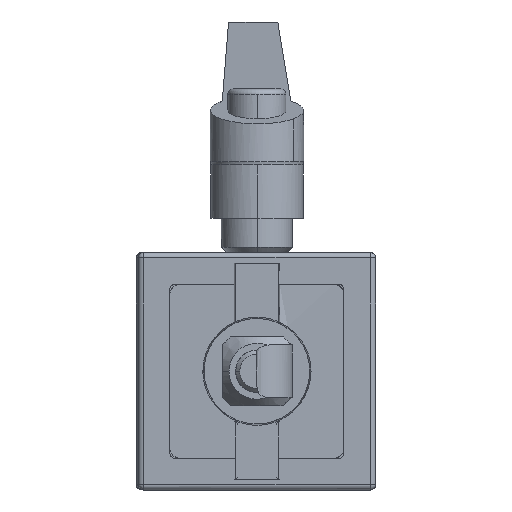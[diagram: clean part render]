
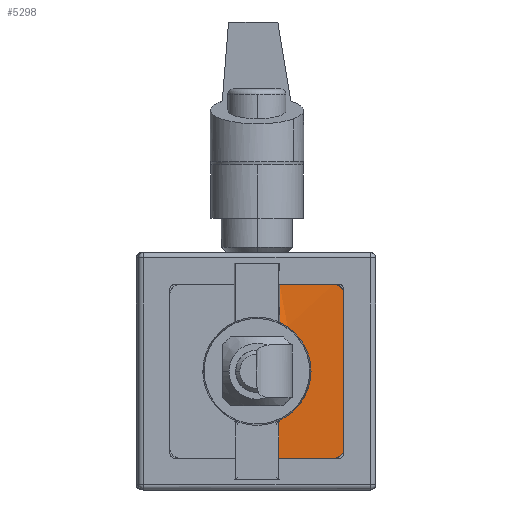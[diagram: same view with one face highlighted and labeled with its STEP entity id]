
A CAD part, front view. The second image highlights one B-rep face of the part: STEP entity #5298.
In plain terms, the highlighted planar face has unit normal (0, -1, 0).
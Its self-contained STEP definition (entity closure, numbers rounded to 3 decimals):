
#221 = CARTESIAN_POINT ( 'NONE',  ( 16.5, -30., 8. ) ) ;
#288 = EDGE_CURVE ( 'NONE', #7520, #676, #13168, .T. ) ;
#649 = CARTESIAN_POINT ( 'NONE',  ( 16.246, -30., 38.01 ) ) ;
#676 = VERTEX_POINT ( 'NONE', #14354 ) ;
#1606 = ORIENTED_EDGE ( 'NONE', *, *, #7059, .T. ) ;
#1809 = ORIENTED_EDGE ( 'NONE', *, *, #9454, .T. ) ;
#1960 = FACE_OUTER_BOUND ( 'NONE', #3933, .T. ) ;
#2166 = CARTESIAN_POINT ( 'NONE',  ( 4.3, -30., 8.399 ) ) ;
#2178 = CARTESIAN_POINT ( 'NONE',  ( 16.5, -30., 17.667 ) ) ;
#2452 = CARTESIAN_POINT ( 'NONE',  ( 16.449, -30., 7.479 ) ) ;
#2602 = CARTESIAN_POINT ( 'NONE',  ( 4.3, -30., 34.203 ) ) ;
#2804 = CARTESIAN_POINT ( 'NONE',  ( 4.3, -30., 6. ) ) ;
#2851 = CARTESIAN_POINT ( 'NONE',  ( 16.449, -30., 37.521 ) ) ;
#2855 = CARTESIAN_POINT ( 'NONE',  ( 4.3, -30., 31.804 ) ) ;
#2928 = CARTESIAN_POINT ( 'NONE',  ( 5.188, -30., 13.606 ) ) ;
#2933 = CARTESIAN_POINT ( 'NONE',  ( 16.5, -30., 37. ) ) ;
#3093 = VERTEX_POINT ( 'NONE', #4434 ) ;
#3419 = B_SPLINE_CURVE_WITH_KNOTS ( 'NONE', 3,
 ( #5044, #13509, #6311, #9819 ),
 .UNSPECIFIED., .F., .F.,
 ( 4, 4 ),
 ( 0., 1. ),
 .UNSPECIFIED. ) ;
#3698 = CARTESIAN_POINT ( 'NONE',  ( 4.3, -30., 31.804 ) ) ;
#3725 = CARTESIAN_POINT ( 'NONE',  ( 8.108, -30., 28.846 ) ) ;
#3728 = B_SPLINE_CURVE_WITH_KNOTS ( 'NONE', 3,
 ( #11763, #13063, #9595, #12063, #8437, #13144, #9445, #2452, #11991, #8504 ),
 .UNSPECIFIED., .F., .F.,
 ( 4, 2, 2, 2, 4 ),
 ( 0., 0.25, 0.5, 0.75, 1. ),
 .UNSPECIFIED. ) ;
#3801 = CARTESIAN_POINT ( 'NONE',  ( 7.476, -30., 29.581 ) ) ;
#3806 = EDGE_CURVE ( 'NONE', #11294, #11307, #3975, .T. ) ;
#3933 = EDGE_LOOP ( 'NONE', ( #14420, #5772, #1809, #10234, #15016, #5281, #4183, #1606, #6797 ) ) ;
#3975 = B_SPLINE_CURVE_WITH_KNOTS ( 'NONE', 3,
 ( #2933, #6330, #2851, #649, #6560, #5372, #14768, #13691, #8980, #13537 ),
 .UNSPECIFIED., .F., .F.,
 ( 4, 2, 2, 2, 4 ),
 ( 0., 0.25, 0.5, 0.75, 1. ),
 .UNSPECIFIED. ) ;
#4019 = CARTESIAN_POINT ( 'NONE',  ( 10.25, -30., 22.5 ) ) ;
#4048 = CARTESIAN_POINT ( 'NONE',  ( 11.1, -30., 6. ) ) ;
#4089 = CARTESIAN_POINT ( 'NONE',  ( 9.162, -30., 17.802 ) ) ;
#4119 = VERTEX_POINT ( 'NONE', #4896 ) ;
#4171 = CARTESIAN_POINT ( 'NONE',  ( 9.564, -30., 18.684 ) ) ;
#4183 = ORIENTED_EDGE ( 'NONE', *, *, #14194, .T. ) ;
#4184 = EDGE_CURVE ( 'NONE', #11307, #6310, #3419, .T. ) ;
#4373 = DIRECTION ( 'NONE',  ( 0., 0., -1. ) ) ;
#4434 = CARTESIAN_POINT ( 'NONE',  ( 14.5, -30., 6. ) ) ;
#4498 = EDGE_CURVE ( 'NONE', #4119, #676, #15315, .T. ) ;
#4528 = CARTESIAN_POINT ( 'NONE',  ( 16.5, -30., 8. ) ) ;
#4896 = CARTESIAN_POINT ( 'NONE',  ( 0., -30., 6. ) ) ;
#5044 = CARTESIAN_POINT ( 'NONE',  ( 14.5, -30., 39. ) ) ;
#5215 = CARTESIAN_POINT ( 'NONE',  ( 6.001, -30., 30.867 ) ) ;
#5281 = ORIENTED_EDGE ( 'NONE', *, *, #6974, .T. ) ;
#5298 = ADVANCED_FACE ( 'NONE', ( #1960 ), #13808, .T. ) ;
#5372 = CARTESIAN_POINT ( 'NONE',  ( 15.727, -30., 38.602 ) ) ;
#5483 = CARTESIAN_POINT ( 'NONE',  ( 7.7, -30., 6. ) ) ;
#5772 = ORIENTED_EDGE ( 'NONE', *, *, #6688, .T. ) ;
#6211 = CARTESIAN_POINT ( 'NONE',  ( 4.3, -28.75, 39. ) ) ;
#6310 = VERTEX_POINT ( 'NONE', #6211 ) ;
#6311 = CARTESIAN_POINT ( 'NONE',  ( 7.7, -30., 39. ) ) ;
#6330 = CARTESIAN_POINT ( 'NONE',  ( 16.5, -30., 37.265 ) ) ;
#6560 = CARTESIAN_POINT ( 'NONE',  ( 16.101, -30., 38.227 ) ) ;
#6688 = EDGE_CURVE ( 'NONE', #6310, #7920, #14035, .T. ) ;
#6784 = CARTESIAN_POINT ( 'NONE',  ( 8.108, -30., 16.154 ) ) ;
#6797 = ORIENTED_EDGE ( 'NONE', *, *, #3806, .T. ) ;
#6974 = EDGE_CURVE ( 'NONE', #4119, #3093, #9470, .T. ) ;
#7059 = EDGE_CURVE ( 'NONE', #9946, #11294, #8376, .T. ) ;
#7520 = VERTEX_POINT ( 'NONE', #12751 ) ;
#7920 = VERTEX_POINT ( 'NONE', #3698 ) ;
#7980 = CARTESIAN_POINT ( 'NONE',  ( 10.25, -30., 21.522 ) ) ;
#8376 = B_SPLINE_CURVE_WITH_KNOTS ( 'NONE', 3,
 ( #4528, #2178, #12797, #11721 ),
 .UNSPECIFIED., .F., .F.,
 ( 4, 4 ),
 ( 0., 1. ),
 .UNSPECIFIED. ) ;
#8437 = CARTESIAN_POINT ( 'NONE',  ( 15.727, -30., 6.399 ) ) ;
#8444 = CARTESIAN_POINT ( 'NONE',  ( 14.5, -30., 39. ) ) ;
#8504 = CARTESIAN_POINT ( 'NONE',  ( 16.5, -30., 8. ) ) ;
#8689 = CARTESIAN_POINT ( 'NONE',  ( 5.188, -30., 31.394 ) ) ;
#8980 = CARTESIAN_POINT ( 'NONE',  ( 14.765, -30., 39. ) ) ;
#9445 = CARTESIAN_POINT ( 'NONE',  ( 16.246, -30., 6.99 ) ) ;
#9454 = EDGE_CURVE ( 'NONE', #7920, #7520, #12640, .T. ) ;
#9470 = B_SPLINE_CURVE_WITH_KNOTS ( 'NONE', 3,
 ( #2804, #5483, #4048, #10250 ),
 .UNSPECIFIED., .F., .F.,
 ( 4, 4 ),
 ( 0., 1. ),
 .UNSPECIFIED. ) ;
#9595 = CARTESIAN_POINT ( 'NONE',  ( 15.021, -30., 6.051 ) ) ;
#9819 = CARTESIAN_POINT ( 'NONE',  ( 4.3, -30., 39. ) ) ;
#9946 = VERTEX_POINT ( 'NONE', #221 ) ;
#9988 = CARTESIAN_POINT ( 'NONE',  ( 9.162, -30., 27.198 ) ) ;
#10234 = ORIENTED_EDGE ( 'NONE', *, *, #288, .T. ) ;
#10250 = CARTESIAN_POINT ( 'NONE',  ( 14.5, -30., 6. ) ) ;
#10769 = CARTESIAN_POINT ( 'NONE',  ( 4.3, -30., 31.804 ) ) ;
#10948 = CARTESIAN_POINT ( 'NONE',  ( 10.25, -30., 22.5 ) ) ;
#11294 = VERTEX_POINT ( 'NONE', #11847 ) ;
#11298 = CARTESIAN_POINT ( 'NONE',  ( 4.3, -30., 13.196 ) ) ;
#11307 = VERTEX_POINT ( 'NONE', #8444 ) ;
#11721 = CARTESIAN_POINT ( 'NONE',  ( 16.5, -30., 37. ) ) ;
#11763 = CARTESIAN_POINT ( 'NONE',  ( 14.5, -30., 6. ) ) ;
#11847 = CARTESIAN_POINT ( 'NONE',  ( 16.5, -30., 37. ) ) ;
#11991 = CARTESIAN_POINT ( 'NONE',  ( 16.5, -30., 7.735 ) ) ;
#12063 = CARTESIAN_POINT ( 'NONE',  ( 15.51, -30., 6.254 ) ) ;
#12080 = AXIS2_PLACEMENT_3D ( 'NONE', #15049, #15125, #4373 ) ;
#12098 = CARTESIAN_POINT ( 'NONE',  ( 10.113, -30., 24.438 ) ) ;
#12382 = CARTESIAN_POINT ( 'NONE',  ( 10.25, -30., 23.479 ) ) ;
#12640 = B_SPLINE_CURVE_WITH_KNOTS ( 'NONE', 3,
 ( #2855, #8689, #5215, #3801, #3725, #9988, #13466, #12098, #12382, #4019 ),
 .UNSPECIFIED., .F., .F.,
 ( 4, 2, 2, 2, 4 ),
 ( 0., 0.25, 0.5, 0.75, 1. ),
 .UNSPECIFIED. ) ;
#12751 = CARTESIAN_POINT ( 'NONE',  ( 10.25, -30., 22.5 ) ) ;
#12757 = CARTESIAN_POINT ( 'NONE',  ( 6.001, -30., 14.133 ) ) ;
#12779 = CARTESIAN_POINT ( 'NONE',  ( 4.3, -30., 13.196 ) ) ;
#12797 = CARTESIAN_POINT ( 'NONE',  ( 16.5, -30., 27.333 ) ) ;
#13063 = CARTESIAN_POINT ( 'NONE',  ( 14.765, -30., 6. ) ) ;
#13144 = CARTESIAN_POINT ( 'NONE',  ( 16.102, -30., 6.773 ) ) ;
#13168 = B_SPLINE_CURVE_WITH_KNOTS ( 'NONE', 3,
 ( #10948, #7980, #14847, #4171, #4089, #6784, #13760, #12757, #2928, #11298 ),
 .UNSPECIFIED., .F., .F.,
 ( 4, 2, 2, 2, 4 ),
 ( 0., 0.25, 0.5, 0.75, 1. ),
 .UNSPECIFIED. ) ;
#13290 = CARTESIAN_POINT ( 'NONE',  ( 4.3, -30., 39. ) ) ;
#13466 = CARTESIAN_POINT ( 'NONE',  ( 9.563, -30., 26.316 ) ) ;
#13509 = CARTESIAN_POINT ( 'NONE',  ( 11.1, -30., 39. ) ) ;
#13537 = CARTESIAN_POINT ( 'NONE',  ( 14.5, -30., 39. ) ) ;
#13691 = CARTESIAN_POINT ( 'NONE',  ( 15.021, -30., 38.949 ) ) ;
#13760 = CARTESIAN_POINT ( 'NONE',  ( 7.476, -30., 15.42 ) ) ;
#13808 = PLANE ( 'NONE',  #12080 ) ;
#13864 = CARTESIAN_POINT ( 'NONE',  ( 4.3, -30., 10.797 ) ) ;
#14035 = B_SPLINE_CURVE_WITH_KNOTS ( 'NONE', 3,
 ( #13290, #15387, #2602, #10769 ),
 .UNSPECIFIED., .F., .F.,
 ( 4, 4 ),
 ( 0., 1. ),
 .UNSPECIFIED. ) ;
#14194 = EDGE_CURVE ( 'NONE', #3093, #9946, #3728, .T. ) ;
#14354 = CARTESIAN_POINT ( 'NONE',  ( 4.3, -30., 13.196 ) ) ;
#14420 = ORIENTED_EDGE ( 'NONE', *, *, #4184, .T. ) ;
#14768 = CARTESIAN_POINT ( 'NONE',  ( 15.51, -30., 38.746 ) ) ;
#14847 = CARTESIAN_POINT ( 'NONE',  ( 10.113, -30., 20.562 ) ) ;
#15016 = ORIENTED_EDGE ( 'NONE', *, *, #4498, .F. ) ;
#15049 = CARTESIAN_POINT ( 'NONE',  ( 0., -30., 22.5 ) ) ;
#15125 = DIRECTION ( 'NONE',  ( 0., -1., 0. ) ) ;
#15190 = CARTESIAN_POINT ( 'NONE',  ( 4.3, -30., 6. ) ) ;
#15315 = B_SPLINE_CURVE_WITH_KNOTS ( 'NONE', 3,
 ( #15190, #2166, #13864, #12779 ),
 .UNSPECIFIED., .F., .F.,
 ( 4, 4 ),
 ( 0., 1. ),
 .UNSPECIFIED. ) ;
#15387 = CARTESIAN_POINT ( 'NONE',  ( 4.3, -30., 36.601 ) ) ;
